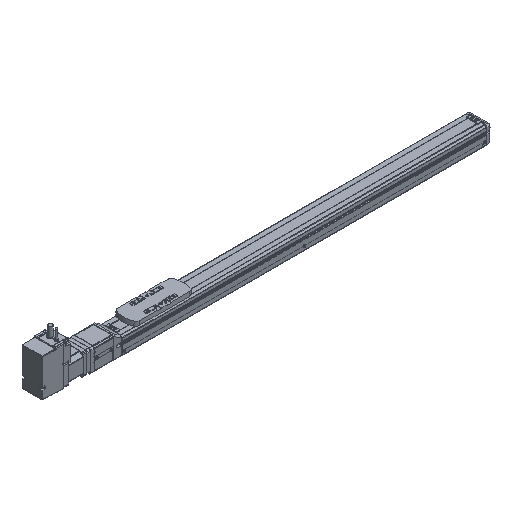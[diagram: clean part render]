
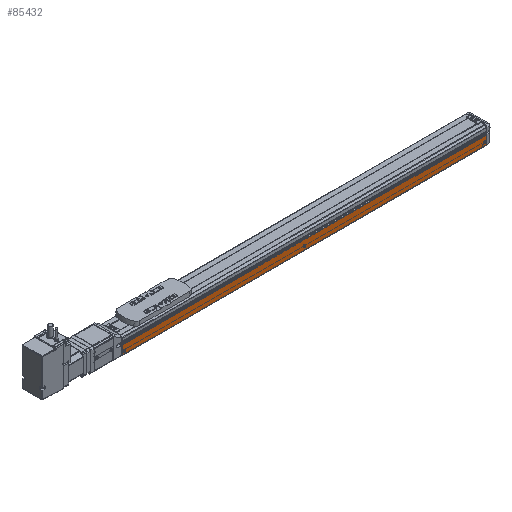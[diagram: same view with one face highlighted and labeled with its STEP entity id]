
A CAD part, isometric view. The second image highlights one B-rep face of the part: STEP entity #85432.
In plain terms, the highlighted planar face has unit normal (0, -1, 0) as drawn and (0, 0, 1) by its records, which use the part's own axes.
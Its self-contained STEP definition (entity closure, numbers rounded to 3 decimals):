
#68324 = PLANE('',#68325);
#68325 = AXIS2_PLACEMENT_3D('',#68326,#68327,#68328);
#68326 = CARTESIAN_POINT('',(-726.5,1.25,21.3));
#68327 = DIRECTION('',(1.,0.,0.));
#68328 = DIRECTION('',(0.,0.,-1.));
#68723 = PLANE('',#68724);
#68724 = AXIS2_PLACEMENT_3D('',#68725,#68726,#68727);
#68725 = CARTESIAN_POINT('',(-9.5,1.25,21.3));
#68726 = DIRECTION('',(1.,0.,0.));
#68727 = DIRECTION('',(0.,0.,-1.));
#85321 = CYLINDRICAL_SURFACE('',#85322,1.);
#85322 = AXIS2_PLACEMENT_3D('',#85323,#85324,#85325);
#85323 = CARTESIAN_POINT('',(-726.5,-20.734,20.5));
#85324 = DIRECTION('',(1.,0.,0.));
#85325 = DIRECTION('',(0.,0.,-1.));
#85359 = VERTEX_POINT('',#85360);
#85360 = CARTESIAN_POINT('',(-9.5,-20.734,21.5));
#85382 = EDGE_CURVE('',#85383,#85359,#85385,.T.);
#85383 = VERTEX_POINT('',#85384);
#85384 = CARTESIAN_POINT('',(-726.5,-20.734,21.5));
#85385 = SURFACE_CURVE('',#85386,(#85390,#85397),.PCURVE_S1.);
#85386 = LINE('',#85387,#85388);
#85387 = CARTESIAN_POINT('',(-726.5,-20.734,21.5));
#85388 = VECTOR('',#85389,1.);
#85389 = DIRECTION('',(1.,0.,0.));
#85390 = PCURVE('',#85321,#85391);
#85391 = DEFINITIONAL_REPRESENTATION('',(#85392),#85396);
#85392 = LINE('',#85393,#85394);
#85393 = CARTESIAN_POINT('',(3.142,0.));
#85394 = VECTOR('',#85395,1.);
#85395 = DIRECTION('',(0.,1.));
#85396 = ( GEOMETRIC_REPRESENTATION_CONTEXT(2) 
PARAMETRIC_REPRESENTATION_CONTEXT() REPRESENTATION_CONTEXT('2D SPACE',''
  ) );
#85397 = PCURVE('',#85398,#85403);
#85398 = PLANE('',#85399);
#85399 = AXIS2_PLACEMENT_3D('',#85400,#85401,#85402);
#85400 = CARTESIAN_POINT('',(-726.5,-2.65,21.5));
#85401 = DIRECTION('',(0.,0.,1.));
#85402 = DIRECTION('',(1.,0.,-0.));
#85403 = DEFINITIONAL_REPRESENTATION('',(#85404),#85408);
#85404 = LINE('',#85405,#85406);
#85405 = CARTESIAN_POINT('',(0.,-18.084));
#85406 = VECTOR('',#85407,1.);
#85407 = DIRECTION('',(1.,0.));
#85408 = ( GEOMETRIC_REPRESENTATION_CONTEXT(2) 
PARAMETRIC_REPRESENTATION_CONTEXT() REPRESENTATION_CONTEXT('2D SPACE',''
  ) );
#85432 = ADVANCED_FACE('',(#85433,#85468,#85499,#85530),#85398,.T.);
#85433 = FACE_BOUND('',#85434,.T.);
#85434 = EDGE_LOOP('',(#85435));
#85435 = ORIENTED_EDGE('',*,*,#85436,.T.);
#85436 = EDGE_CURVE('',#85437,#85437,#85439,.T.);
#85437 = VERTEX_POINT('',#85438);
#85438 = CARTESIAN_POINT('',(-370.25,-13.5,21.5));
#85439 = SURFACE_CURVE('',#85440,(#85445,#85456),.PCURVE_S1.);
#85440 = CIRCLE('',#85441,2.25);
#85441 = AXIS2_PLACEMENT_3D('',#85442,#85443,#85444);
#85442 = CARTESIAN_POINT('',(-368.,-13.5,21.5));
#85443 = DIRECTION('',(0.,0.,-1.));
#85444 = DIRECTION('',(-1.,0.,0.));
#85445 = PCURVE('',#85398,#85446);
#85446 = DEFINITIONAL_REPRESENTATION('',(#85447),#85455);
#85447 = ( BOUNDED_CURVE() B_SPLINE_CURVE(2,(#85448,#85449,#85450,#85451
    ,#85452,#85453,#85454),.UNSPECIFIED.,.T.,.F.) 
B_SPLINE_CURVE_WITH_KNOTS((1,2,2,2,2,1),(-2.094,0.,
    2.094,4.189,6.283,8.378),
.UNSPECIFIED.) CURVE() GEOMETRIC_REPRESENTATION_ITEM() 
RATIONAL_B_SPLINE_CURVE((1.,0.5,1.,0.5,1.,0.5,1.)) REPRESENTATION_ITEM(
  '') );
#85448 = CARTESIAN_POINT('',(356.25,-10.85));
#85449 = CARTESIAN_POINT('',(356.25,-6.953));
#85450 = CARTESIAN_POINT('',(359.625,-8.901));
#85451 = CARTESIAN_POINT('',(363.,-10.85));
#85452 = CARTESIAN_POINT('',(359.625,-12.799));
#85453 = CARTESIAN_POINT('',(356.25,-14.747));
#85454 = CARTESIAN_POINT('',(356.25,-10.85));
#85455 = ( GEOMETRIC_REPRESENTATION_CONTEXT(2) 
PARAMETRIC_REPRESENTATION_CONTEXT() REPRESENTATION_CONTEXT('2D SPACE',''
  ) );
#85456 = PCURVE('',#85457,#85462);
#85457 = CONICAL_SURFACE('',#85458,2.181,0.087);
#85458 = AXIS2_PLACEMENT_3D('',#85459,#85460,#85461);
#85459 = CARTESIAN_POINT('',(-368.,-13.5,22.289));
#85460 = DIRECTION('',(0.,0.,-1.));
#85461 = DIRECTION('',(-1.,0.,0.));
#85462 = DEFINITIONAL_REPRESENTATION('',(#85463),#85467);
#85463 = LINE('',#85464,#85465);
#85464 = CARTESIAN_POINT('',(0.,0.789));
#85465 = VECTOR('',#85466,1.);
#85466 = DIRECTION('',(1.,0.));
#85467 = ( GEOMETRIC_REPRESENTATION_CONTEXT(2) 
PARAMETRIC_REPRESENTATION_CONTEXT() REPRESENTATION_CONTEXT('2D SPACE',''
  ) );
#85468 = FACE_BOUND('',#85469,.T.);
#85469 = EDGE_LOOP('',(#85470));
#85470 = ORIENTED_EDGE('',*,*,#85471,.F.);
#85471 = EDGE_CURVE('',#85472,#85472,#85474,.T.);
#85472 = VERTEX_POINT('',#85473);
#85473 = CARTESIAN_POINT('',(-720.71,-14.5,21.5));
#85474 = SURFACE_CURVE('',#85475,(#85480,#85487),.PCURVE_S1.);
#85475 = CIRCLE('',#85476,2.29);
#85476 = AXIS2_PLACEMENT_3D('',#85477,#85478,#85479);
#85477 = CARTESIAN_POINT('',(-723.,-14.5,21.5));
#85478 = DIRECTION('',(0.,0.,1.));
#85479 = DIRECTION('',(1.,0.,-0.));
#85480 = PCURVE('',#85398,#85481);
#85481 = DEFINITIONAL_REPRESENTATION('',(#85482),#85486);
#85482 = CIRCLE('',#85483,2.29);
#85483 = AXIS2_PLACEMENT_2D('',#85484,#85485);
#85484 = CARTESIAN_POINT('',(3.5,-11.85));
#85485 = DIRECTION('',(1.,0.));
#85486 = ( GEOMETRIC_REPRESENTATION_CONTEXT(2) 
PARAMETRIC_REPRESENTATION_CONTEXT() REPRESENTATION_CONTEXT('2D SPACE',''
  ) );
#85487 = PCURVE('',#85488,#85493);
#85488 = CONICAL_SURFACE('',#85489,2.29,0.087);
#85489 = AXIS2_PLACEMENT_3D('',#85490,#85491,#85492);
#85490 = CARTESIAN_POINT('',(-723.,-14.5,21.5));
#85491 = DIRECTION('',(0.,0.,-1.));
#85492 = DIRECTION('',(-1.,0.,0.));
#85493 = DEFINITIONAL_REPRESENTATION('',(#85494),#85498);
#85494 = LINE('',#85495,#85496);
#85495 = CARTESIAN_POINT('',(9.425,0.));
#85496 = VECTOR('',#85497,1.);
#85497 = DIRECTION('',(-1.,0.));
#85498 = ( GEOMETRIC_REPRESENTATION_CONTEXT(2) 
PARAMETRIC_REPRESENTATION_CONTEXT() REPRESENTATION_CONTEXT('2D SPACE',''
  ) );
#85499 = FACE_BOUND('',#85500,.T.);
#85500 = EDGE_LOOP('',(#85501));
#85501 = ORIENTED_EDGE('',*,*,#85502,.F.);
#85502 = EDGE_CURVE('',#85503,#85503,#85505,.T.);
#85503 = VERTEX_POINT('',#85504);
#85504 = CARTESIAN_POINT('',(-10.71,-14.5,21.5));
#85505 = SURFACE_CURVE('',#85506,(#85511,#85518),.PCURVE_S1.);
#85506 = CIRCLE('',#85507,2.29);
#85507 = AXIS2_PLACEMENT_3D('',#85508,#85509,#85510);
#85508 = CARTESIAN_POINT('',(-13.,-14.5,21.5));
#85509 = DIRECTION('',(0.,0.,1.));
#85510 = DIRECTION('',(1.,0.,-0.));
#85511 = PCURVE('',#85398,#85512);
#85512 = DEFINITIONAL_REPRESENTATION('',(#85513),#85517);
#85513 = CIRCLE('',#85514,2.29);
#85514 = AXIS2_PLACEMENT_2D('',#85515,#85516);
#85515 = CARTESIAN_POINT('',(713.5,-11.85));
#85516 = DIRECTION('',(1.,0.));
#85517 = ( GEOMETRIC_REPRESENTATION_CONTEXT(2) 
PARAMETRIC_REPRESENTATION_CONTEXT() REPRESENTATION_CONTEXT('2D SPACE',''
  ) );
#85518 = PCURVE('',#85519,#85524);
#85519 = CONICAL_SURFACE('',#85520,2.29,0.087);
#85520 = AXIS2_PLACEMENT_3D('',#85521,#85522,#85523);
#85521 = CARTESIAN_POINT('',(-13.,-14.5,21.5));
#85522 = DIRECTION('',(0.,0.,-1.));
#85523 = DIRECTION('',(-1.,0.,0.));
#85524 = DEFINITIONAL_REPRESENTATION('',(#85525),#85529);
#85525 = LINE('',#85526,#85527);
#85526 = CARTESIAN_POINT('',(9.425,0.));
#85527 = VECTOR('',#85528,1.);
#85528 = DIRECTION('',(-1.,0.));
#85529 = ( GEOMETRIC_REPRESENTATION_CONTEXT(2) 
PARAMETRIC_REPRESENTATION_CONTEXT() REPRESENTATION_CONTEXT('2D SPACE',''
  ) );
#85530 = FACE_BOUND('',#85531,.T.);
#85531 = EDGE_LOOP('',(#85532,#85555,#85583,#85604));
#85532 = ORIENTED_EDGE('',*,*,#85533,.F.);
#85533 = EDGE_CURVE('',#85534,#85359,#85536,.T.);
#85534 = VERTEX_POINT('',#85535);
#85535 = CARTESIAN_POINT('',(-9.5,-2.65,21.5));
#85536 = SURFACE_CURVE('',#85537,(#85541,#85548),.PCURVE_S1.);
#85537 = LINE('',#85538,#85539);
#85538 = CARTESIAN_POINT('',(-9.5,-2.65,21.5));
#85539 = VECTOR('',#85540,1.);
#85540 = DIRECTION('',(0.,-1.,0.));
#85541 = PCURVE('',#85398,#85542);
#85542 = DEFINITIONAL_REPRESENTATION('',(#85543),#85547);
#85543 = LINE('',#85544,#85545);
#85544 = CARTESIAN_POINT('',(717.,0.));
#85545 = VECTOR('',#85546,1.);
#85546 = DIRECTION('',(0.,-1.));
#85547 = ( GEOMETRIC_REPRESENTATION_CONTEXT(2) 
PARAMETRIC_REPRESENTATION_CONTEXT() REPRESENTATION_CONTEXT('2D SPACE',''
  ) );
#85548 = PCURVE('',#68723,#85549);
#85549 = DEFINITIONAL_REPRESENTATION('',(#85550),#85554);
#85550 = LINE('',#85551,#85552);
#85551 = CARTESIAN_POINT('',(-0.2,-3.9));
#85552 = VECTOR('',#85553,1.);
#85553 = DIRECTION('',(0.,-1.));
#85554 = ( GEOMETRIC_REPRESENTATION_CONTEXT(2) 
PARAMETRIC_REPRESENTATION_CONTEXT() REPRESENTATION_CONTEXT('2D SPACE',''
  ) );
#85555 = ORIENTED_EDGE('',*,*,#85556,.F.);
#85556 = EDGE_CURVE('',#85557,#85534,#85559,.T.);
#85557 = VERTEX_POINT('',#85558);
#85558 = CARTESIAN_POINT('',(-726.5,-2.65,21.5));
#85559 = SURFACE_CURVE('',#85560,(#85564,#85571),.PCURVE_S1.);
#85560 = LINE('',#85561,#85562);
#85561 = CARTESIAN_POINT('',(-726.5,-2.65,21.5));
#85562 = VECTOR('',#85563,1.);
#85563 = DIRECTION('',(1.,0.,0.));
#85564 = PCURVE('',#85398,#85565);
#85565 = DEFINITIONAL_REPRESENTATION('',(#85566),#85570);
#85566 = LINE('',#85567,#85568);
#85567 = CARTESIAN_POINT('',(0.,0.));
#85568 = VECTOR('',#85569,1.);
#85569 = DIRECTION('',(1.,0.));
#85570 = ( GEOMETRIC_REPRESENTATION_CONTEXT(2) 
PARAMETRIC_REPRESENTATION_CONTEXT() REPRESENTATION_CONTEXT('2D SPACE',''
  ) );
#85571 = PCURVE('',#85572,#85577);
#85572 = CYLINDRICAL_SURFACE('',#85573,0.2);
#85573 = AXIS2_PLACEMENT_3D('',#85574,#85575,#85576);
#85574 = CARTESIAN_POINT('',(-726.5,-2.65,21.3));
#85575 = DIRECTION('',(1.,0.,0.));
#85576 = DIRECTION('',(0.,0.,-1.));
#85577 = DEFINITIONAL_REPRESENTATION('',(#85578),#85582);
#85578 = LINE('',#85579,#85580);
#85579 = CARTESIAN_POINT('',(3.142,0.));
#85580 = VECTOR('',#85581,1.);
#85581 = DIRECTION('',(0.,1.));
#85582 = ( GEOMETRIC_REPRESENTATION_CONTEXT(2) 
PARAMETRIC_REPRESENTATION_CONTEXT() REPRESENTATION_CONTEXT('2D SPACE',''
  ) );
#85583 = ORIENTED_EDGE('',*,*,#85584,.T.);
#85584 = EDGE_CURVE('',#85557,#85383,#85585,.T.);
#85585 = SURFACE_CURVE('',#85586,(#85590,#85597),.PCURVE_S1.);
#85586 = LINE('',#85587,#85588);
#85587 = CARTESIAN_POINT('',(-726.5,-2.65,21.5));
#85588 = VECTOR('',#85589,1.);
#85589 = DIRECTION('',(0.,-1.,0.));
#85590 = PCURVE('',#85398,#85591);
#85591 = DEFINITIONAL_REPRESENTATION('',(#85592),#85596);
#85592 = LINE('',#85593,#85594);
#85593 = CARTESIAN_POINT('',(0.,0.));
#85594 = VECTOR('',#85595,1.);
#85595 = DIRECTION('',(0.,-1.));
#85596 = ( GEOMETRIC_REPRESENTATION_CONTEXT(2) 
PARAMETRIC_REPRESENTATION_CONTEXT() REPRESENTATION_CONTEXT('2D SPACE',''
  ) );
#85597 = PCURVE('',#68324,#85598);
#85598 = DEFINITIONAL_REPRESENTATION('',(#85599),#85603);
#85599 = LINE('',#85600,#85601);
#85600 = CARTESIAN_POINT('',(-0.2,-3.9));
#85601 = VECTOR('',#85602,1.);
#85602 = DIRECTION('',(0.,-1.));
#85603 = ( GEOMETRIC_REPRESENTATION_CONTEXT(2) 
PARAMETRIC_REPRESENTATION_CONTEXT() REPRESENTATION_CONTEXT('2D SPACE',''
  ) );
#85604 = ORIENTED_EDGE('',*,*,#85382,.T.);
